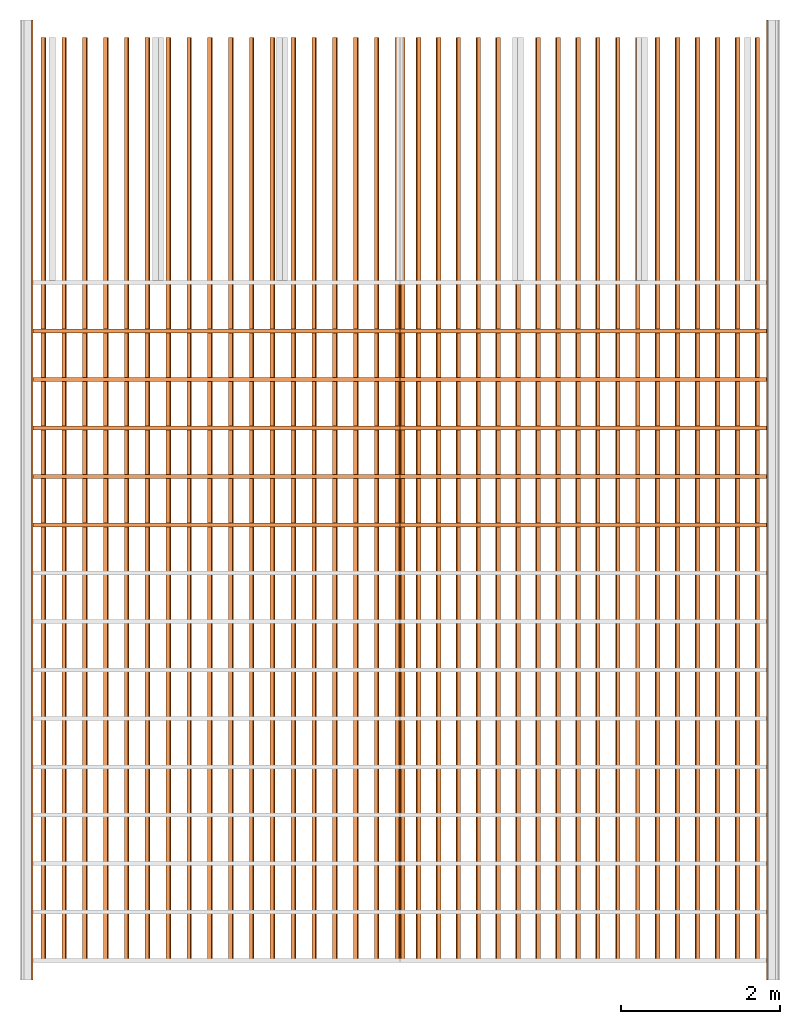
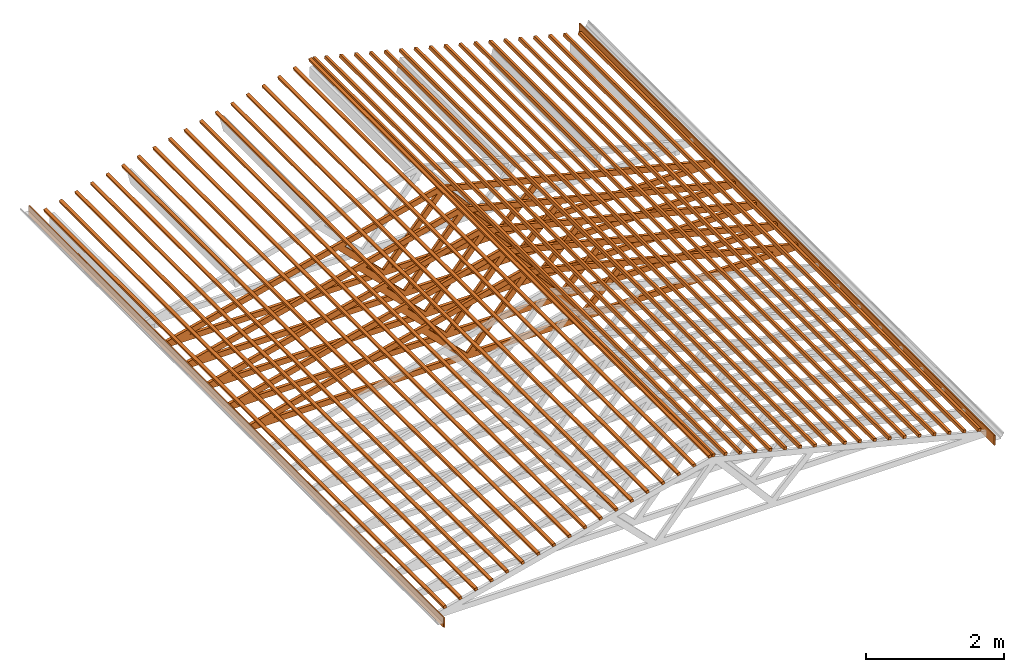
# One storey, part 3 of 4: 7 proxies.
"""IFC2X3 building model written with IfcOpenShell, lengths in metres."""

from ifc_helpers import new_model, entity, si_unit, converted_unit, derived_unit, direction, frame, frame_2d, origin, origin_2d_with_axis, place, context, subcontext, project, spatial, polyline, rectangle, outline, extrude, source, transform, mapped, material, type_object, type_shapes, element, save


model = new_model("IFC2X3")

# Units and contexts
model_context = context("Model", 3, precision=1e-05, world=origin(), true_north=direction((6.123031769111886e-17, 1.0)))
body_context = subcontext(model_context, "Body", "Model", "MODEL_VIEW")
ifc_project = project(units=[si_unit("LENGTHUNIT", "METRE"), si_unit("AREAUNIT", "SQUARE_METRE"), si_unit("VOLUMEUNIT", "CUBIC_METRE"), converted_unit("PLANEANGLEUNIT", "DEGREE", entity("IfcRatioMeasure", 0.017453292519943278), si_unit("PLANEANGLEUNIT", "RADIAN"), dimensions=[0, 0, 0, 0, 0, 0, 0]), si_unit("MASSUNIT", "GRAM", prefix="KILO"), derived_unit("MASSDENSITYUNIT", [(si_unit("MASSUNIT", "GRAM", prefix="KILO"), 1), (si_unit("LENGTHUNIT", "METRE"), -3)]), derived_unit("IONCONCENTRATIONUNIT", [(si_unit("MASSUNIT", "GRAM", prefix="KILO"), 1), (si_unit("LENGTHUNIT", "METRE"), -3)]), derived_unit("MOMENTOFINERTIAUNIT", [(si_unit("LENGTHUNIT", "METRE"), 4)]), si_unit("TIMEUNIT", "SECOND"), si_unit("FREQUENCYUNIT", "HERTZ"), si_unit("THERMODYNAMICTEMPERATUREUNIT", "DEGREE_CELSIUS"), derived_unit("THERMALTRANSMITTANCEUNIT", [(si_unit("MASSUNIT", "GRAM", prefix="KILO"), 1), (si_unit("THERMODYNAMICTEMPERATUREUNIT", "KELVIN"), -1), (si_unit("TIMEUNIT", "SECOND"), -3)]), derived_unit("THERMALCONDUCTANCEUNIT", [(si_unit("MASSUNIT", "GRAM", prefix="KILO"), 1), (si_unit("THERMODYNAMICTEMPERATUREUNIT", "KELVIN"), -1), (si_unit("TIMEUNIT", "SECOND"), -3), (si_unit("LENGTHUNIT", "METRE"), 1)]), derived_unit("VOLUMETRICFLOWRATEUNIT", [(si_unit("LENGTHUNIT", "METRE"), 3), (si_unit("TIMEUNIT", "SECOND"), -1)]), derived_unit("MASSFLOWRATEUNIT", [(si_unit("MASSUNIT", "GRAM", prefix="KILO"), 1), (si_unit("TIMEUNIT", "SECOND"), -1)]), derived_unit("ROTATIONALFREQUENCYUNIT", [(si_unit("TIMEUNIT", "SECOND"), -1)]), si_unit("ELECTRICCURRENTUNIT", "AMPERE"), si_unit("ELECTRICVOLTAGEUNIT", "VOLT"), si_unit("POWERUNIT", "WATT"), si_unit("FORCEUNIT", "NEWTON", prefix="KILO"), si_unit("ILLUMINANCEUNIT", "LUX"), si_unit("LUMINOUSFLUXUNIT", "LUMEN"), si_unit("LUMINOUSINTENSITYUNIT", "CANDELA"), derived_unit("USERDEFINED", [(si_unit("MASSUNIT", "GRAM", prefix="KILO"), -1), (si_unit("LENGTHUNIT", "METRE"), -2), (si_unit("TIMEUNIT", "SECOND"), 3), (si_unit("LUMINOUSFLUXUNIT", "LUMEN"), 1)]), derived_unit("USERDEFINED", [(si_unit("MASSUNIT", "GRAM", prefix="KILO"), 1), (si_unit("TIMEUNIT", "SECOND"), -3), (si_unit("LENGTHUNIT", "METRE"), 3), (si_unit("ELECTRICCURRENTUNIT", "AMPERE"), -2)]), derived_unit("SOUNDPOWERUNIT", [(si_unit("MASSUNIT", "GRAM", prefix="KILO"), 1), (si_unit("TIMEUNIT", "SECOND"), -3), (si_unit("LENGTHUNIT", "METRE"), 2)]), derived_unit("SOUNDPRESSUREUNIT", [(si_unit("MASSUNIT", "GRAM", prefix="KILO"), 1), (si_unit("LENGTHUNIT", "METRE"), -1), (si_unit("TIMEUNIT", "SECOND"), -2)]), derived_unit("LINEARVELOCITYUNIT", [(si_unit("LENGTHUNIT", "METRE"), 1), (si_unit("TIMEUNIT", "SECOND"), -1)]), si_unit("PRESSUREUNIT", "PASCAL"), derived_unit("USERDEFINED", [(si_unit("MASSUNIT", "GRAM", prefix="KILO"), 1), (si_unit("LENGTHUNIT", "METRE"), -2), (si_unit("TIMEUNIT", "SECOND"), -2)]), derived_unit("LINEARFORCEUNIT", [(si_unit("MASSUNIT", "GRAM", prefix="KILO"), 1), (si_unit("TIMEUNIT", "SECOND"), -2)]), derived_unit("PLANARFORCEUNIT", [(si_unit("MASSUNIT", "GRAM", prefix="KILO"), 1), (si_unit("LENGTHUNIT", "METRE"), -1), (si_unit("TIMEUNIT", "SECOND"), -2)]), derived_unit("SPECIFICHEATCAPACITYUNIT", [(si_unit("THERMODYNAMICTEMPERATUREUNIT", "KELVIN"), -1), (si_unit("LENGTHUNIT", "METRE"), 2), (si_unit("TIMEUNIT", "SECOND"), -2)]), derived_unit("HEATINGVALUEUNIT", [(si_unit("LENGTHUNIT", "METRE"), 2), (si_unit("TIMEUNIT", "SECOND"), -2)]), derived_unit("VAPORPERMEABILITYUNIT", [(si_unit("LENGTHUNIT", "METRE"), -1), (si_unit("TIMEUNIT", "SECOND"), 1)]), derived_unit("DYNAMICVISCOSITYUNIT", [(si_unit("MASSUNIT", "GRAM", prefix="KILO"), 1), (si_unit("TIMEUNIT", "SECOND"), -1), (si_unit("LENGTHUNIT", "METRE"), -1)]), derived_unit("THERMALEXPANSIONCOEFFICIENTUNIT", [(si_unit("THERMODYNAMICTEMPERATUREUNIT", "KELVIN"), -1)]), derived_unit("MODULUSOFELASTICITYUNIT", [(si_unit("MASSUNIT", "GRAM", prefix="KILO"), 1), (si_unit("LENGTHUNIT", "METRE"), -1), (si_unit("TIMEUNIT", "SECOND"), -2)]), derived_unit("ISOTHERMALMOISTURECAPACITYUNIT", [(si_unit("LENGTHUNIT", "METRE"), 3), (si_unit("MASSUNIT", "GRAM", prefix="KILO"), -1)]), derived_unit("MOISTUREDIFFUSIVITYUNIT", [(si_unit("TIMEUNIT", "SECOND"), -1), (si_unit("LENGTHUNIT", "METRE"), 2)])], contexts=[model_context])

# Site, building, storey
site_placement = place(None, frame((1.2553507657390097, -0.6266432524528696, -1.0397761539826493), z_axis=(0.0, 0.0, 1.0), x_axis=(-1.0, 0.0, 0.0)))
site = spatial("IfcSite", under=ifc_project, at=site_placement, Name="Default", CompositionType="ELEMENT")
building_placement = place(site_placement, origin())
building = spatial("IfcBuilding", under=site, at=building_placement, Name="MAISON D'HABITATION", CompositionType="ELEMENT")
storey_placement = place(building_placement, frame((0.0, 0.0, 3.569776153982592)))
storey = spatial("IfcBuildingStorey", under=building, at=storey_placement, Name="Niveau .....", CompositionType="ELEMENT", Elevation=3.569776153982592)

# Proxies
ifc_material = material(Name="<Unnamed>")
building_element_proxy_type_1 = type_object("IfcBuildingElementProxyType", Name="Ossature 17:Ossature 17", PredefinedType="NOTDEFINED", material=ifc_material)
shared_shape_1 = source(origin(), body_context, "Body", "SweptSolid", [
    extrude(rectangle(XDim=0.050000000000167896, YDim=0.04999999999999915, at=frame_2d((-6.765421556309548e-17, 8.534839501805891e-16), x_axis=(1.0, 0.0))), frame((4.190750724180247, -8.463816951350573, 3.8379005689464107), z_axis=(0.0, 1.0, 0.0), x_axis=(0.2425992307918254, 0.0, 0.9701265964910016)), (0.0, 0.0, 1.0), 11.599999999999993),
    extrude(rectangle(XDim=0.05000000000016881, YDim=0.0500000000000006, at=frame_2d((-1.3183898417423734e-16, -5.273559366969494e-16), x_axis=(1.0, 0.0))), frame((3.9295566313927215, -8.463816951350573, 3.903217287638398), z_axis=(0.0, 1.0, 0.0), x_axis=(0.24259923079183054, 0.0, 0.9701265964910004)), (0.0, 0.0, 1.0), 11.6),
    extrude(rectangle(XDim=0.05000000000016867, YDim=0.05000000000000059, at=frame_2d((-6.591949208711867e-17, -2.6194324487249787e-16), x_axis=(1.0, 0.0))), frame((3.6683625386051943, -8.463816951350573, 3.9685340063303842), z_axis=(0.0, 1.0, 0.0), x_axis=(0.2425992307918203, 0.0, 0.9701265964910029)), (0.0, 0.0, 1.0), 11.600000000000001),
    extrude(rectangle(XDim=0.050000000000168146, YDim=0.05000000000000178, at=frame_2d((-1.3183898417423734e-16, -5.238864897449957e-16), x_axis=(1.0, 0.0))), frame((3.407168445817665, -8.463816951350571, 4.033850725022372), z_axis=(0.0, 1.0, 0.0), x_axis=(0.2425992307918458, 0.0, 0.9701265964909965)), (0.0, 0.0, 1.0), 11.599999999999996),
    extrude(rectangle(XDim=0.050000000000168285, YDim=0.04999999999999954, at=frame_2d((5.898059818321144e-16, 1.3010426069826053e-16), x_axis=(1.0, 0.0))), frame((3.1459743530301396, -8.463816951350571, 4.099167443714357), z_axis=(0.0, 1.0, 0.0), x_axis=(0.24259923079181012, 0.0, 0.9701265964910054)), (0.0, 0.0, 1.0), 11.600000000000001),
    extrude(rectangle(XDim=0.050000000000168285, YDim=0.04999999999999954, at=frame_2d((6.591949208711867e-17, 2.6194324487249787e-16), x_axis=(1.0, 0.0))), frame((2.884780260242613, -8.463816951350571, 4.164484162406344), z_axis=(0.0, 1.0, 0.0), x_axis=(0.24259923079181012, 0.0, 0.9701265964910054)), (0.0, 0.0, 1.0), 11.600000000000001),
    extrude(rectangle(XDim=0.05000000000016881, YDim=0.0500000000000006, at=frame_2d((-1.3183898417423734e-16, -5.273559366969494e-16), x_axis=(1.0, 0.0))), frame((2.6235861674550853, -8.463816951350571, 4.22980088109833), z_axis=(0.0, 1.0, 0.0), x_axis=(0.24259923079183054, 0.0, 0.9701265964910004)), (0.0, 0.0, 1.0), 11.6),
    extrude(rectangle(XDim=0.05000000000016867, YDim=0.050000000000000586, at=frame_2d((4.597017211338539e-16, -3.937822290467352e-16), x_axis=(1.0, 0.0))), frame((2.3623920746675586, -8.46381695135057, 4.295117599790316), z_axis=(0.0, 1.0, 0.0), x_axis=(0.2425992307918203, 0.0, 0.9701265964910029)), (0.0, 0.0, 1.0), 11.600000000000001),
    extrude(rectangle(XDim=0.05000000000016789, YDim=0.05000000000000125, at=frame_2d((4.597017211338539e-16, -3.937822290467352e-16), x_axis=(1.0, 0.0))), frame((2.1011979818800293, -8.463816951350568, 4.360434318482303), z_axis=(0.0, 1.0, 0.0), x_axis=(0.2425992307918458, 0.0, 0.9701265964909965)), (0.0, 0.0, 1.0), 11.599999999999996),
    extrude(rectangle(XDim=0.050000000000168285, YDim=0.04999999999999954, at=frame_2d((-5.2562121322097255e-16, 1.3183898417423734e-16), x_axis=(1.0, 0.0))), frame((1.840003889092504, -8.463816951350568, 4.42575103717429), z_axis=(0.0, 1.0, 0.0), x_axis=(0.24259923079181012, 0.0, 0.9701265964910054)), (0.0, 0.0, 1.0), 11.600000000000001),
    extrude(rectangle(XDim=0.0500000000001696, YDim=0.050000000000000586, at=frame_2d((-5.2562121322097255e-16, -9.80118763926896e-16), x_axis=(1.0, 0.0))), frame((1.5788097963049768, -8.463816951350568, 4.491067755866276), z_axis=(0.0, 1.0, 0.0), x_axis=(0.2425992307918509, 0.0, 0.9701265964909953)), (0.0, 0.0, 1.0), 11.6),
    extrude(rectangle(XDim=0.0500000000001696, YDim=0.05000000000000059, at=frame_2d((0.0, -1.1171619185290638e-15), x_axis=(1.0, 0.0))), frame((1.3176157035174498, -8.463816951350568, 4.5563844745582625), z_axis=(0.0, 1.0, 0.0), x_axis=(0.2425992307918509, 0.0, 0.9701265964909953)), (0.0, 0.0, 1.0), 11.6),
    extrude(rectangle(XDim=0.05000000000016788, YDim=0.04999999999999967, at=frame_2d((-1.3183898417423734e-16, 5.915407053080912e-16), x_axis=(1.0, 0.0))), frame((1.0564216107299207, -8.463816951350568, 4.62170119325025), z_axis=(0.0, 1.0, 0.0), x_axis=(0.2425992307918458, 0.0, 0.9701265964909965)), (0.0, 0.0, 1.0), 11.600000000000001),
    extrude(rectangle(XDim=0.050000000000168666, YDim=0.050000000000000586, at=origin_2d_with_axis()), frame((0.7952275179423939, -8.463816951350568, 4.6870179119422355), z_axis=(0.0, 1.0, 0.0), x_axis=(0.2425992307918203, 0.0, 0.9701265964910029)), (0.0, 0.0, 1.0), 11.600000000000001),
    extrude(rectangle(XDim=0.0500000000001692, YDim=0.05000000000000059, at=frame_2d((0.0, -1.1188966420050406e-15), x_axis=(1.0, 0.0))), frame((0.5340334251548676, -8.463816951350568, 4.752334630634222), z_axis=(0.0, 1.0, 0.0), x_axis=(0.24259923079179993, 0.0, 0.970126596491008)), (0.0, 0.0, 1.0), 11.600000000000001),
    extrude(rectangle(XDim=0.0500000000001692, YDim=0.05000000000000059, at=origin_2d_with_axis()), frame((0.2728393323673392, -8.463816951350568, 4.8176513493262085), z_axis=(0.0, 1.0, 0.0), x_axis=(0.24259923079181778, 0.0, 0.9701265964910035)), (0.0, 0.0, 1.0), 11.600000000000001),
    extrude(rectangle(XDim=0.05000000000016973, YDim=0.05000000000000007, at=frame_2d((-5.273559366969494e-16, 1.3183898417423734e-16), x_axis=(1.0, 0.0))), frame((0.011645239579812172, -8.463816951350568, 4.882968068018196), z_axis=(0.0, 1.0, 0.0), x_axis=(0.24259923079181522, 0.0, 0.9701265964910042)), (0.0, 0.0, 1.0), 11.600000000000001),
    extrude(rectangle(XDim=0.05000000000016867, YDim=0.05000000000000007, at=frame_2d((4.579669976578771e-16, -3.937822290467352e-16), x_axis=(1.0, 0.0))), frame((-0.2495488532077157, -8.463816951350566, 4.948284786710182), z_axis=(0.0, 1.0, 0.0), x_axis=(0.2425992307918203, 0.0, 0.9701265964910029)), (0.0, 0.0, 1.0), 11.599999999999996),
    extrude(rectangle(XDim=0.050000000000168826, YDim=0.05000000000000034, at=frame_2d((1.1171619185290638e-15, 0.0), x_axis=(1.0, 0.0))), frame((-0.511678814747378, -8.46381695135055, 4.8978973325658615), z_axis=(0.0, 1.0, 0.0), x_axis=(-0.24259923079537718, 0.0, 0.9701265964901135)), (0.0, 0.0, 1.0), 11.599999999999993),
    extrude(rectangle(XDim=0.05000000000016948, YDim=0.0500000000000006, at=frame_2d((3.608224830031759e-16, -3.2786273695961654e-16), x_axis=(1.0, 0.0))), frame((-0.7616788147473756, -8.46381695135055, 4.8353799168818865), z_axis=(0.0, 1.0, 0.0), x_axis=(-0.2425992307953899, 0.0, 0.9701265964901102)), (0.0, 0.0, 1.0), 11.600000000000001),
    extrude(rectangle(XDim=0.05000000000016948, YDim=0.0500000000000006, at=frame_2d((3.608224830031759e-16, -3.2786273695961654e-16), x_axis=(1.0, 0.0))), frame((-1.0116788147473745, -8.46381695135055, 4.7728625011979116), z_axis=(0.0, 1.0, 0.0), x_axis=(-0.2425992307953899, 0.0, 0.9701265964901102)), (0.0, 0.0, 1.0), 11.600000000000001),
    extrude(rectangle(XDim=0.050000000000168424, YDim=0.050000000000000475, at=frame_2d((-1.960237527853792e-16, -3.3133218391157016e-16), x_axis=(1.0, 0.0))), frame((-1.2616788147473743, -8.463816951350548, 4.7103450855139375), z_axis=(0.0, 1.0, 0.0), x_axis=(-0.24259923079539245, 0.0, 0.9701265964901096)), (0.0, 0.0, 1.0), 11.600000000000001),
    extrude(rectangle(XDim=0.05000000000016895, YDim=0.05000000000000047, at=frame_2d((6.591949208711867e-17, -2.6194324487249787e-16), x_axis=(1.0, 0.0))), frame((-1.5116788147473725, -8.463816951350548, 4.647827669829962), z_axis=(0.0, 1.0, 0.0), x_axis=(-0.2425992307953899, 0.0, 0.9701265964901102)), (0.0, 0.0, 1.0), 11.600000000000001),
    extrude(rectangle(XDim=0.05000000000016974, YDim=0.0500000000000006, at=frame_2d((6.574601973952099e-16, -3.937822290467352e-16), x_axis=(1.0, 0.0))), frame((-1.761678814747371, -8.463816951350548, 4.585310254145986), z_axis=(0.0, 1.0, 0.0), x_axis=(-0.2425992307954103, 0.0, 0.9701265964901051)), (0.0, 0.0, 1.0), 11.599999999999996),
    extrude(rectangle(XDim=0.05000000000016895, YDim=0.05000000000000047, at=frame_2d((6.591949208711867e-17, -2.6194324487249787e-16), x_axis=(1.0, 0.0))), frame((-2.0116788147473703, -8.463816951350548, 4.522792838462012), z_axis=(0.0, 1.0, 0.0), x_axis=(-0.2425992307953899, 0.0, 0.9701265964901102)), (0.0, 0.0, 1.0), 11.600000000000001),
    extrude(rectangle(XDim=0.05000000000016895, YDim=0.05000000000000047, at=frame_2d((6.591949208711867e-17, -2.6194324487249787e-16), x_axis=(1.0, 0.0))), frame((-2.261678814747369, -8.463816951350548, 4.460275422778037), z_axis=(0.0, 1.0, 0.0), x_axis=(-0.2425992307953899, 0.0, 0.9701265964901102)), (0.0, 0.0, 1.0), 11.600000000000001),
    extrude(rectangle(XDim=0.05000000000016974, YDim=0.05000000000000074, at=frame_2d((-1.3010426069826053e-16, -5.93275428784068e-16), x_axis=(1.0, 0.0))), frame((-2.5116788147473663, -8.463816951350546, 4.397758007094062), z_axis=(0.0, 1.0, 0.0), x_axis=(-0.24259923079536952, 0.0, 0.9701265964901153)), (0.0, 0.0, 1.0), 11.600000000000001),
    extrude(rectangle(XDim=0.050000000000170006, YDim=0.05000000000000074, at=frame_2d((-2.6020852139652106e-16, -1.1813466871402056e-15), x_axis=(1.0, 0.0))), frame((-2.7616788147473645, -8.463816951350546, 4.335240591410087), z_axis=(0.0, 1.0, 0.0), x_axis=(-0.24259923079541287, 0.0, 0.9701265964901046)), (0.0, 0.0, 1.0), 11.6),
    extrude(rectangle(XDim=0.05000000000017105, YDim=0.05000000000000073, at=frame_2d((0.0, -1.1171619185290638e-15), x_axis=(1.0, 0.0))), frame((-3.011678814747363, -8.463816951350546, 4.272723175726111), z_axis=(0.0, 1.0, 0.0), x_axis=(-0.24259923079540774, 0.0, 0.9701265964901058)), (0.0, 0.0, 1.0), 11.600000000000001),
    extrude(rectangle(XDim=0.050000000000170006, YDim=0.050000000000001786, at=frame_2d((-2.6020852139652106e-16, -1.1813466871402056e-15), x_axis=(1.0, 0.0))), frame((-3.2616788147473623, -8.463816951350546, 4.210205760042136), z_axis=(0.0, 1.0, 0.0), x_axis=(-0.24259923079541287, 0.0, 0.9701265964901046)), (0.0, 0.0, 1.0), 11.6),
    extrude(rectangle(XDim=0.050000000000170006, YDim=0.050000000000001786, at=frame_2d((-2.6020852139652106e-16, -1.1813466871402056e-15), x_axis=(1.0, 0.0))), frame((-3.511678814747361, -8.463816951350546, 4.147688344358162), z_axis=(0.0, 1.0, 0.0), x_axis=(-0.24259923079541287, 0.0, 0.9701265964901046)), (0.0, 0.0, 1.0), 11.6),
    extrude(rectangle(XDim=0.05000000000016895, YDim=0.04999999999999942, at=frame_2d((-1.3010426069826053e-16, -5.898059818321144e-16), x_axis=(1.0, 0.0))), frame((-3.7616788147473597, -8.463816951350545, 4.085170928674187), z_axis=(0.0, 1.0, 0.0), x_axis=(-0.2425992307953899, 0.0, 0.9701265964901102)), (0.0, 0.0, 1.0), 11.600000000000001),
    extrude(rectangle(XDim=0.050000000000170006, YDim=0.050000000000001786, at=frame_2d((-2.6020852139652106e-16, -1.1813466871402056e-15), x_axis=(1.0, 0.0))), frame((-4.011678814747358, -8.463816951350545, 4.022653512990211), z_axis=(0.0, 1.0, 0.0), x_axis=(-0.24259923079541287, 0.0, 0.9701265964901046)), (0.0, 0.0, 1.0), 11.6),
    extrude(rectangle(XDim=0.05000000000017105, YDim=0.05000000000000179, at=frame_2d((-1.3183898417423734e-16, -5.93275428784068e-16), x_axis=(1.0, 0.0))), frame((-4.261678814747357, -8.463816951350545, 3.960136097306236), z_axis=(0.0, 1.0, 0.0), x_axis=(-0.24259923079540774, 0.0, 0.9701265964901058)), (0.0, 0.0, 1.0), 11.600000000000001),
    extrude(rectangle(XDim=0.05000000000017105, YDim=0.05000000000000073, at=frame_2d((0.0, -1.1171619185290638e-15), x_axis=(1.0, 0.0))), frame((-4.511678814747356, -8.463816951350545, 3.8976186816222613), z_axis=(0.0, 1.0, 0.0), x_axis=(-0.24259923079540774, 0.0, 0.9701265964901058)), (0.0, 0.0, 1.0), 11.600000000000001),
    extrude(rectangle(XDim=0.05000000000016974, YDim=0.05000000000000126, at=frame_2d((1.960237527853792e-16, -7.892991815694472e-16), x_axis=(1.0, 0.0))), frame((-4.761678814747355, -8.463816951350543, 3.835101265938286), z_axis=(0.0, 1.0, 0.0), x_axis=(-0.24259923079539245, 0.0, 0.9701265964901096)), (0.0, 0.0, 1.0), 11.600000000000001),
    extrude(rectangle(XDim=0.050000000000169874, YDim=0.05000000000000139, at=frame_2d((-3.95516952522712e-16, -6.557254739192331e-16), x_axis=(1.0, 0.0))), frame((-0.3101851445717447, -8.463816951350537, 4.948284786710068), z_axis=(0.0, 1.0, 0.0), x_axis=(-0.24259923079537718, 0.0, 0.9701265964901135)), (0.0, 0.0, 1.0), 11.600000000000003),
])
type_shapes(building_element_proxy_type_1, [shared_shape_1])
proxy_1_placement = place(storey_placement, frame((0.0, 0.0, -3.569776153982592)))
element("IfcBuildingElementProxy", 1, at=proxy_1_placement, inside=storey, type_object=building_element_proxy_type_1, material=ifc_material, Name="Ossature 17:Ossature 17", ObjectType="Ossature 17:Ossature 17", context=body_context, shape_type="MappedRepresentation", body=[
    mapped(shared_shape_1, transform((0.0, 0.0, 0.0), scale=1.0)),
])
building_element_proxy_type_2 = type_object("IfcBuildingElementProxyType", Name="Bord de toiture:Bord de toiture DROIT", PredefinedType="NOTDEFINED")
proxy_2_placement = place(storey_placement, origin())
element("IfcBuildingElementProxy", 2, at=proxy_2_placement, inside=storey, type_object=building_element_proxy_type_2, Name="Bord de toiture:Bord de toiture DROIT", ObjectType="Bord de toiture:Bord de toiture DROIT", context=body_context, shape_type="SweptSolid", body=[
    extrude(rectangle(XDim=12.040000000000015, YDim=0.019000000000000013, at=origin_2d_with_axis()), frame((4.329633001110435, -2.6638169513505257, 0.08653966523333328), z_axis=(0.0, 0.0, 1.0), x_axis=(0.0, 1.0, 0.0)), (0.0, 0.0, 1.0), 0.17499999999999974),
    extrude(rectangle(XDim=12.040000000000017, YDim=0.019000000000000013, at=frame_2d((-8.881784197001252e-16, 0.0), x_axis=(1.0, 0.0))), frame((-4.889366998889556, -2.6638169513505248, 0.08653966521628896), z_axis=(0.0, 0.0, 1.0), x_axis=(0.0, -1.0, 0.0)), (0.0, 0.0, 1.0), 0.17499999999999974),
])
building_element_proxy_type_3 = type_object("IfcBuildingElementProxyType", Name="Ossature 11:Ossature 1", PredefinedType="NOTDEFINED", material=ifc_material)
shared_shape_2 = source(origin(), body_context, "Body", "SweptSolid", [
    extrude(outline(polyline([(-0.29006408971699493, -4.599999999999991), (-0.19006408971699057, -4.599999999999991), (0.960256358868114, 0.0), (-0.19006408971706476, 4.600000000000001), (-0.29006408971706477, 4.600000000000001), (-0.29006408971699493, -4.599999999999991)]), holes=[polyline([(0.4313496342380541, -1.7028350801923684), (-0.19006408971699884, -4.187797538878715), (-0.19006408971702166, -1.0814213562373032), (0.4313496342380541, -1.7028350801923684)]), polyline([(-0.19006408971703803, 1.0814213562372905), (-0.19006408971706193, 4.187797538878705), (0.4313496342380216, 1.7028350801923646), (-0.19006408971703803, 1.0814213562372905)]), polyline([(-0.19006408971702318, -0.9399999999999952), (-0.19006408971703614, 0.8076775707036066), (0.8183380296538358, -0.06616121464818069), (-0.19006408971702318, -0.9399999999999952)]), polyline([(-0.19006408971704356, 0.9399999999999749), (0.4596402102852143, 1.5897043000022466), (0.8467997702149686, 0.041497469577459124), (-0.19006408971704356, 0.9399999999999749)]), polyline([(0.4596402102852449, -1.5897043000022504), (-0.11917294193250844, -1.0108911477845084), (0.8045556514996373, -0.21042687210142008), (0.4596402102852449, -1.5897043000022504)])]), frame((-0.2798669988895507, -8.278102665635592, 3.969840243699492), z_axis=(0.0, 1.0, 0.0), x_axis=(0.0, 0.0, 1.0)), (0.0, 0.0, 1.0), 0.04999999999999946),
])
type_shapes(building_element_proxy_type_3, [shared_shape_2])
proxy_3_placement = place(storey_placement, frame((0.0, 5.899999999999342, -3.569776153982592)))
element("IfcBuildingElementProxy", 3, at=proxy_3_placement, inside=storey, type_object=building_element_proxy_type_3, material=ifc_material, Name="Ossature 11:Ossature 1", ObjectType="Ossature 11:Ossature 1", context=body_context, shape_type="MappedRepresentation", body=[
    mapped(shared_shape_2, transform((0.0, 0.0, 0.0), scale=1.0)),
])
building_element_proxy_type_4 = type_object("IfcBuildingElementProxyType", Name="Ossature 12:Ossature 1", PredefinedType="NOTDEFINED", material=ifc_material)
shared_shape_3 = source(origin(), body_context, "Body", "SweptSolid", [
    extrude(outline(polyline([(-0.29006408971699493, -4.599999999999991), (-0.19006408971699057, -4.599999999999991), (0.960256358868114, 0.0), (-0.19006408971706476, 4.600000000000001), (-0.29006408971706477, 4.600000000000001), (-0.29006408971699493, -4.599999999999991)]), holes=[polyline([(0.4313496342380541, -1.7028350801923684), (-0.19006408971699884, -4.187797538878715), (-0.19006408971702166, -1.0814213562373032), (0.4313496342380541, -1.7028350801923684)]), polyline([(-0.19006408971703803, 1.0814213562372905), (-0.19006408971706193, 4.187797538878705), (0.4313496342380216, 1.7028350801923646), (-0.19006408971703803, 1.0814213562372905)]), polyline([(-0.19006408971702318, -0.9399999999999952), (-0.19006408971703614, 0.8076775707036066), (0.8183380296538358, -0.06616121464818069), (-0.19006408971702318, -0.9399999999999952)]), polyline([(-0.19006408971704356, 0.9399999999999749), (0.4596402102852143, 1.5897043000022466), (0.8467997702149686, 0.041497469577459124), (-0.19006408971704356, 0.9399999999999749)]), polyline([(0.4596402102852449, -1.5897043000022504), (-0.11917294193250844, -1.0108911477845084), (0.8045556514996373, -0.21042687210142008), (0.4596402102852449, -1.5897043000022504)])]), frame((-0.2798669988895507, -8.88524552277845, 3.969840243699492), z_axis=(0.0, 1.0, 0.0), x_axis=(0.0, 0.0, 1.0)), (0.0, 0.0, 1.0), 0.04999999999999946),
])
type_shapes(building_element_proxy_type_4, [shared_shape_3])
proxy_4_placement = place(storey_placement, frame((0.0, 5.899999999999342, -3.569776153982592)))
element("IfcBuildingElementProxy", 4, at=proxy_4_placement, inside=storey, type_object=building_element_proxy_type_4, material=ifc_material, Name="Ossature 12:Ossature 1", ObjectType="Ossature 12:Ossature 1", context=body_context, shape_type="MappedRepresentation", body=[
    mapped(shared_shape_3, transform((0.0, 0.0, 0.0), scale=1.0)),
])
building_element_proxy_type_5 = type_object("IfcBuildingElementProxyType", Name="Ossature 13:Ossature 1", PredefinedType="NOTDEFINED", material=ifc_material)
shared_shape_4 = source(origin(), body_context, "Body", "SweptSolid", [
    extrude(outline(polyline([(-0.19457787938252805, -4.599999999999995), (-0.09457787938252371, -4.599999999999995), (-0.029559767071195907, -4.340000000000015), (-0.014577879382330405, -4.2800891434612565), (1.0557425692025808, 0.0), (-0.014577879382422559, 4.280089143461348), (-0.029559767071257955, 4.339999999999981), (-0.09457787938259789, 4.599999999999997), (-0.19457787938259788, 4.599999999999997), (-0.19457787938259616, 4.3399999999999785), (-0.19457787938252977, -4.340000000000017), (-0.19457787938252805, -4.599999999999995)]), holes=[polyline([(0.5551264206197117, -1.5897043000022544), (-0.014577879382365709, -1.0200000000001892), (-0.023686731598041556, -1.0108911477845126), (-0.014577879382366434, -1.002997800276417), (0.9000418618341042, -0.21042687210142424), (0.5551264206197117, -1.5897043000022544)]), polyline([(0.526835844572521, -1.7028350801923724), (-0.014577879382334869, -3.8678866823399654), (-0.09457787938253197, -4.187797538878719), (-0.09457787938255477, -1.0814213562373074), (-0.014577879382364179, -1.1614213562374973), (0.526835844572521, -1.7028350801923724)]), polyline([(-0.09457787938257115, 1.0814213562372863), (-0.09457787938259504, 4.187797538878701), (-0.014577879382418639, 3.8678866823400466), (0.5268358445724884, 1.7028350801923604), (-0.01457787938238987, 1.1614213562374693), (-0.09457787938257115, 1.0814213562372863)]), polyline([(-0.0945778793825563, -0.9399999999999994), (-0.09457787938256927, 0.8076775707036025), (-0.014577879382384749, 0.7383529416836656), (0.9138242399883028, -0.06616121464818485), (-0.014577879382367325, -0.8706753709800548), (-0.0945778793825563, -0.9399999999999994)]), polyline([(-0.09457787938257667, 0.9399999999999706), (-0.014577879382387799, 1.0200000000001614), (0.5551264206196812, 1.5897043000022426), (0.9422859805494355, 0.041497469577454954), (-0.01457787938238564, 0.8706753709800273), (-0.09457787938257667, 0.9399999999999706)])]), frame((-0.27986699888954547, -9.492388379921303, 3.8743540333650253), z_axis=(0.0, 1.0, 0.0), x_axis=(0.0, 0.0, 1.0)), (0.0, 0.0, 1.0), 0.04999999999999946),
])
type_shapes(building_element_proxy_type_5, [shared_shape_4])
proxy_5_placement = place(storey_placement, frame((0.0, 5.899999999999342, -3.569776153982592)))
element("IfcBuildingElementProxy", 5, at=proxy_5_placement, inside=storey, type_object=building_element_proxy_type_5, material=ifc_material, Name="Ossature 13:Ossature 1", ObjectType="Ossature 13:Ossature 1", context=body_context, shape_type="MappedRepresentation", body=[
    mapped(shared_shape_4, transform((0.0, 0.0, 0.0), scale=1.0)),
])
building_element_proxy_type_6 = type_object("IfcBuildingElementProxyType", Name="Ossature 14:Ossature 1", PredefinedType="NOTDEFINED", material=ifc_material)
shared_shape_5 = source(origin(), body_context, "Body", "SweptSolid", [
    extrude(outline(polyline([(-0.19457787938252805, -4.599999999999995), (-0.09457787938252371, -4.599999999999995), (-0.029559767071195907, -4.340000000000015), (-0.014577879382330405, -4.2800891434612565), (1.0557425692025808, 0.0), (-0.014577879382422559, 4.280089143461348), (-0.029559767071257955, 4.339999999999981), (-0.09457787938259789, 4.599999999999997), (-0.19457787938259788, 4.599999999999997), (-0.19457787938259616, 4.3399999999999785), (-0.19457787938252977, -4.340000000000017), (-0.19457787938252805, -4.599999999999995)]), holes=[polyline([(0.5551264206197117, -1.5897043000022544), (-0.014577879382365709, -1.0200000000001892), (-0.023686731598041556, -1.0108911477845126), (-0.014577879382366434, -1.002997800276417), (0.9000418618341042, -0.21042687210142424), (0.5551264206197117, -1.5897043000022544)]), polyline([(0.526835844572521, -1.7028350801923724), (-0.014577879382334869, -3.8678866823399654), (-0.09457787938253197, -4.187797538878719), (-0.09457787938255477, -1.0814213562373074), (-0.014577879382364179, -1.1614213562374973), (0.526835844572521, -1.7028350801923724)]), polyline([(-0.09457787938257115, 1.0814213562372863), (-0.09457787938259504, 4.187797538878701), (-0.014577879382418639, 3.8678866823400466), (0.5268358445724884, 1.7028350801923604), (-0.01457787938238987, 1.1614213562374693), (-0.09457787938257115, 1.0814213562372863)]), polyline([(-0.0945778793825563, -0.9399999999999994), (-0.09457787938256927, 0.8076775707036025), (-0.014577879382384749, 0.7383529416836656), (0.9138242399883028, -0.06616121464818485), (-0.014577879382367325, -0.8706753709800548), (-0.0945778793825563, -0.9399999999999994)]), polyline([(-0.09457787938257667, 0.9399999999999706), (-0.014577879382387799, 1.0200000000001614), (0.5551264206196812, 1.5897043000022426), (0.9422859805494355, 0.041497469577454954), (-0.01457787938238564, 0.8706753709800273), (-0.09457787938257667, 0.9399999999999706)])]), frame((-0.27986699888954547, -10.09953123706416, 3.8743540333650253), z_axis=(0.0, 1.0, 0.0), x_axis=(0.0, 0.0, 1.0)), (0.0, 0.0, 1.0), 0.04999999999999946),
])
type_shapes(building_element_proxy_type_6, [shared_shape_5])
proxy_6_placement = place(storey_placement, frame((0.0, 5.899999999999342, -3.569776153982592)))
element("IfcBuildingElementProxy", 6, at=proxy_6_placement, inside=storey, type_object=building_element_proxy_type_6, material=ifc_material, Name="Ossature 14:Ossature 1", ObjectType="Ossature 14:Ossature 1", context=body_context, shape_type="MappedRepresentation", body=[
    mapped(shared_shape_5, transform((0.0, 0.0, 0.0), scale=1.0)),
])
building_element_proxy_type_7 = type_object("IfcBuildingElementProxyType", Name="Ossature 18:Ossature 1", PredefinedType="NOTDEFINED", material=ifc_material)
shared_shape_6 = source(origin(), body_context, "Body", "SweptSolid", [
    extrude(outline(polyline([(-0.29006408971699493, -4.599999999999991), (-0.19006408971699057, -4.599999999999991), (0.960256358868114, 0.0), (-0.19006408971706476, 4.600000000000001), (-0.29006408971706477, 4.600000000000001), (-0.29006408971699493, -4.599999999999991)]), holes=[polyline([(0.4313496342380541, -1.7028350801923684), (-0.19006408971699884, -4.187797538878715), (-0.19006408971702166, -1.0814213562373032), (0.4313496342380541, -1.7028350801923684)]), polyline([(-0.19006408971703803, 1.0814213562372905), (-0.19006408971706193, 4.187797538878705), (0.4313496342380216, 1.7028350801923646), (-0.19006408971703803, 1.0814213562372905)]), polyline([(-0.19006408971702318, -0.9399999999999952), (-0.19006408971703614, 0.8076775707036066), (0.8183380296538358, -0.06616121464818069), (-0.19006408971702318, -0.9399999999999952)]), polyline([(-0.19006408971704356, 0.9399999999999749), (0.4596402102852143, 1.5897043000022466), (0.8467997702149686, 0.041497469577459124), (-0.19006408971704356, 0.9399999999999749)]), polyline([(0.4596402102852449, -1.5897043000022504), (-0.11917294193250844, -1.0108911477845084), (0.8045556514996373, -0.21042687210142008), (0.4596402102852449, -1.5897043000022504)])]), frame((-0.2798669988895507, -10.706674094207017, 3.969840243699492), z_axis=(0.0, 1.0, 0.0), x_axis=(0.0, 0.0, 1.0)), (0.0, 0.0, 1.0), 0.04999999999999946),
])
type_shapes(building_element_proxy_type_7, [shared_shape_6])
proxy_7_placement = place(storey_placement, frame((0.0, 5.899999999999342, -3.569776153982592)))
element("IfcBuildingElementProxy", 7, at=proxy_7_placement, inside=storey, type_object=building_element_proxy_type_7, material=ifc_material, Name="Ossature 18:Ossature 1", ObjectType="Ossature 18:Ossature 1", context=body_context, shape_type="MappedRepresentation", body=[
    mapped(shared_shape_6, transform((0.0, 0.0, 0.0), scale=1.0)),
])

save(model, "model.ifc")
